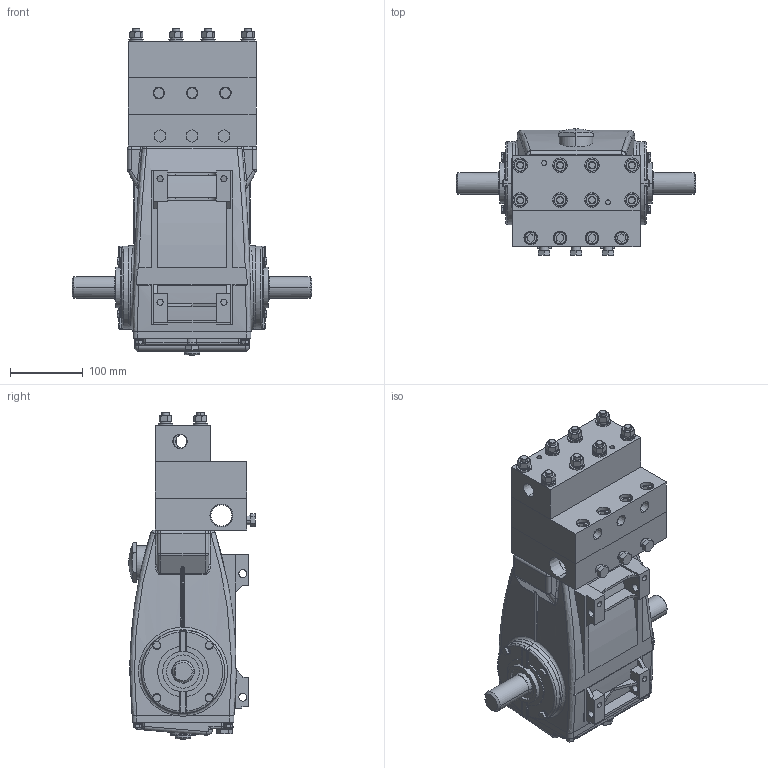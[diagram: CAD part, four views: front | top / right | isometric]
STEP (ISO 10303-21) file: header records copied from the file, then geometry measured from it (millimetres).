
FILE_DESCRIPTION (( 'STEP AP214' ), '1' );
FILE_NAME ('1861.STEP', '2010-08-19T19:29:28', ( 'Mary Jo Helmbrecht' ), ( 'DDC' ), 'SwSTEP 2.0', 'SolidWorks 2010', '' );
FILE_SCHEMA (( 'AUTOMOTIVE_DESIGN' ));
Length unit declared in the file: millimetre
Products named in the file (1): 1861
Bounding box: 329.95 x 174.62 x 450.12 mm (x, y, z)
Surface area: 457880.6 mm2 (no closed solid volume)
Topology: 0 solids, 50 shells, 874 faces, 2535 edges, 1601 vertices
Faces by surface type: plane 402, cylinder 270, cone 107, bspline 38, torus 36, sphere 21
Entity records: 55235 total; most frequent: CARTESIAN_POINT 22979, DIRECTION 4898, ORIENTED_EDGE 4299, EDGE_CURVE 2511, AXIS2_PLACEMENT_3D 1850, VERTEX_POINT 1599, LINE 1198, VECTOR 1198
